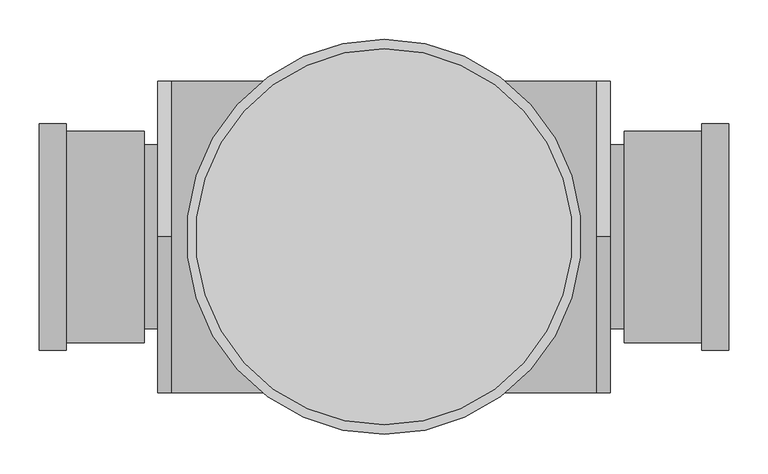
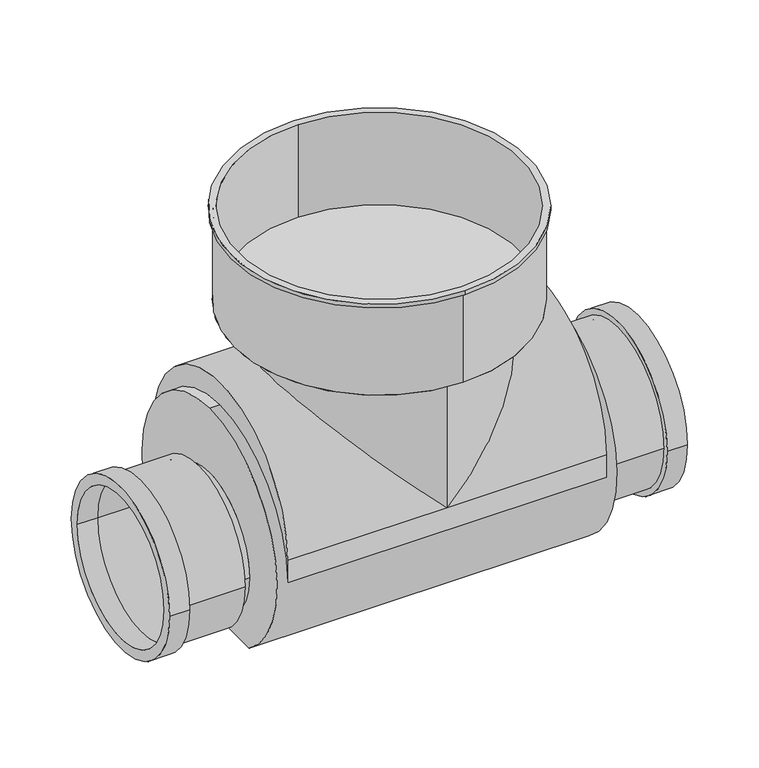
"""IFC4 building model written with IfcOpenShell, lengths in millimetres: valve geometry, Pipelife - Studnia PRO 425 - Kineta studni przelotowa PR 2M G1 : 425 p GŁ 200 2M G1."""

import ifcopenshell
import ifcopenshell.guid

model = None  # the IFC model being written
_history = None  # IfcOwnerHistory: only IFC2X3 demands one
_inside = {}  # id of a spatial element -> (the spatial element, [elements in it])
_under = {}  # id of a project, library or spatial element -> (it, [spatial elements below it])
_declared = {}  # id of a project -> (the project, [libraries it declares])
_typed = {}  # id of a type object -> (the type object, [elements of that type])
_made_of = {}  # id of a material, layer set ... -> (it, [elements and type objects made of it])


def new_model(schema):
    """Start an empty IFC model of exactly this schema.

    Asked for "IFC4X3", IfcOpenShell would pick the latest addendum, in which some entities
    have other attributes; the version numbers below select the first issue.
    IFC2X3 requires an IfcOwnerHistory on every rooted entity: one is made here for all.
    """
    global model, _history
    if schema == "IFC4X3":
        model = ifcopenshell.file(schema_version=(4, 3, 0, 0))
    else:
        model = ifcopenshell.file(schema=schema)
    _inside.clear()
    _under.clear()
    _declared.clear()
    _typed.clear()
    _made_of.clear()
    _history = None
    if model.schema == "IFC2X3":
        org = make("IfcOrganization", Name="unknown")
        user = make(
            "IfcPersonAndOrganization",
            ThePerson=make("IfcPerson", FamilyName="unknown"),
            TheOrganization=org,
        )
        app = make(
            "IfcApplication",
            ApplicationDeveloper=org,
            Version="unknown",
            ApplicationFullName="unknown",
            ApplicationIdentifier="unknown",
        )
        _history = make(
            "IfcOwnerHistory",
            OwningUser=user,
            OwningApplication=app,
            ChangeAction="ADDED",
            CreationDate=0,
        )
    return model


def make(cls, **values):
    """One entity of the class cls with the attributes given. An attribute that is None is left unset."""
    return model.create_entity(
        cls, **{name: value for name, value in values.items() if value is not None}
    )


def rooted(cls, **values):
    """An entity with a GlobalId (a new one), such as an element, a storey or a relation."""
    return make(cls, GlobalId=ifcopenshell.guid.new(), OwnerHistory=_history, **values)


def si_unit(unit_type, name, prefix=None):
    """IfcSIUnit, for example si_unit("LENGTHUNIT", "METRE", prefix="MILLI")."""
    return make("IfcSIUnit", UnitType=unit_type, Prefix=prefix, Name=name)


def assignment(units):
    """IfcUnitAssignment: the units of a project."""
    return None if units is None else make("IfcUnitAssignment", Units=units)


def point(xyz):
    """IfcCartesianPoint."""
    return None if xyz is None else make("IfcCartesianPoint", Coordinates=xyz)


def direction(xyz):
    """IfcDirection."""
    return None if xyz is None else make("IfcDirection", DirectionRatios=xyz)


def frame(location, z_axis=None, x_axis=None):
    """IfcAxis2Placement3D, a coordinate frame: its origin and axes. An axis left out is left unset."""
    return make(
        "IfcAxis2Placement3D",
        Location=point(location),
        Axis=direction(z_axis),
        RefDirection=direction(x_axis),
    )


def frame_2d(location, x_axis=None):
    """IfcAxis2Placement2D, a coordinate frame in the plane: its origin and x axis."""
    return make(
        "IfcAxis2Placement2D", Location=point(location), RefDirection=direction(x_axis)
    )


def origin():
    """The frame at (0, 0, 0) with its axes left unset."""
    return frame((0.0, 0.0, 0.0))


def place(relative_to, where):
    """IfcLocalPlacement: puts the frame where relative to a parent placement (None: the world)."""
    return make(
        "IfcLocalPlacement", PlacementRelTo=relative_to, RelativePlacement=where
    )


def context(
    kind, dimensions, precision=None, world=None, true_north=None, identifier=None
):
    """IfcGeometricRepresentationContext, for example the 3D "Model" context."""
    return make(
        "IfcGeometricRepresentationContext",
        ContextIdentifier=identifier,
        ContextType=kind,
        CoordinateSpaceDimension=dimensions,
        Precision=precision,
        WorldCoordinateSystem=world,
        TrueNorth=true_north,
    )


def project(units=None, contexts=None):
    """IfcProject with its units and contexts."""
    return rooted(
        "IfcProject",
        Name="project",
        RepresentationContexts=contexts,
        UnitsInContext=assignment(units),
    )


def spatial(cls, under=None, at=None, **own):
    """A site, building, storey or space (cls), placed at a placement, below another one or the project."""
    s = rooted(cls, ObjectPlacement=at, **own)
    if under is not None:
        _under.setdefault(under.id(), (under, []))[1].append(s)
    return s


def polyline(points):
    """IfcPolyline through the points."""
    return make("IfcPolyline", Points=[point(p) for p in points])


def circle_curve(where, radius):
    """IfcCircle in the frame where."""
    return make("IfcCircle", Position=where, Radius=radius)


def ellipse_curve(where, semi_axis1, semi_axis2):
    """IfcEllipse in the frame where."""
    return make(
        "IfcEllipse", Position=where, SemiAxis1=semi_axis1, SemiAxis2=semi_axis2
    )


def trimmed(basis, trim1, trim2, sense, master):
    """IfcTrimmedCurve: the piece of a basis curve between two trims."""
    return make(
        "IfcTrimmedCurve",
        BasisCurve=basis,
        Trim1=trim1,
        Trim2=trim2,
        SenseAgreement=sense,
        MasterRepresentation=master,
    )


def segment(curve, same_sense, transition):
    """IfcCompositeCurveSegment."""
    return make(
        "IfcCompositeCurveSegment",
        Transition=transition,
        SameSense=same_sense,
        ParentCurve=curve,
    )


def composite_curve(segments, self_intersect=None):
    """IfcCompositeCurve: segments joined end to end."""
    return make("IfcCompositeCurve", Segments=segments, SelfIntersect=self_intersect)


def outline(outer, holes=None, kind="AREA"):
    """IfcArbitraryClosedProfileDef: a profile drawn as a closed curve; with holes, ...WithVoids."""
    if holes is None:
        return make("IfcArbitraryClosedProfileDef", ProfileType=kind, OuterCurve=outer)
    return make(
        "IfcArbitraryProfileDefWithVoids",
        ProfileType=kind,
        OuterCurve=outer,
        InnerCurves=holes,
    )


def extrude(swept, where, along, depth):
    """IfcExtrudedAreaSolid: the profile swept, set in the frame where, extruded along a direction by depth."""
    return make(
        "IfcExtrudedAreaSolid",
        SweptArea=swept,
        Position=where,
        ExtrudedDirection=direction(along),
        Depth=depth,
    )


def shape(context_of_items, identifier, shape_type, items):
    """IfcShapeRepresentation: the items that make up one representation, for example the "Body"."""
    return make(
        "IfcShapeRepresentation",
        ContextOfItems=context_of_items,
        RepresentationIdentifier=identifier,
        RepresentationType=shape_type,
        Items=items,
    )


def source(mapping_origin, context_of_items, identifier, shape_type, items):
    """IfcRepresentationMap: a shape defined once, which mapped items show again and again."""
    return make(
        "IfcRepresentationMap",
        MappingOrigin=mapping_origin,
        MappedRepresentation=shape(context_of_items, identifier, shape_type, items),
    )


def transform(
    local_origin,
    x_axis=None,
    y_axis=None,
    z_axis=None,
    scale=None,
    scale2=None,
    scale3=None,
    uniform=True,
):
    """IfcCartesianTransformationOperator3D, or its non-uniform kind. x_axis, y_axis, z_axis: its Axis1, 2, 3."""
    if uniform:
        return make(
            "IfcCartesianTransformationOperator3D",
            Axis1=direction(x_axis),
            Axis2=direction(y_axis),
            LocalOrigin=point(local_origin),
            Scale=scale,
            Axis3=direction(z_axis),
        )
    return make(
        "IfcCartesianTransformationOperator3DnonUniform",
        Axis1=direction(x_axis),
        Axis2=direction(y_axis),
        LocalOrigin=point(local_origin),
        Scale=scale,
        Axis3=direction(z_axis),
        Scale2=scale2,
        Scale3=scale3,
    )


def mapped(mapping_source, mapping_target):
    """IfcMappedItem: shows the shape of a source again, moved by a transform."""
    return make(
        "IfcMappedItem", MappingSource=mapping_source, MappingTarget=mapping_target
    )


def made_of(thing, what):
    """Note that an element or type object is made of a material, layer set ...; save() writes the relation."""
    if what is not None:
        _made_of.setdefault(what.id(), (what, []))[1].append(thing)
    return thing


def element(
    cls,
    number,
    at=None,
    inside=None,
    cuts=None,
    type_object=None,
    material=None,
    context=None,
    identifier="Body",
    shape_type=None,
    held_by="IfcProductDefinitionShape",
    body=None,
    shapes=None,
    **own,
):
    """One element of the class cls, such as IfcWall. Its Tag is "e" and its number.

    at: its placement. inside: the storey or other place that contains it. cuts: it is an
    opening in that element (IfcRelVoidsElement). A single representation is given by context,
    identifier, shape_type and body (its items); several are given by shapes. held_by: the class
    of the entity that holds the representations. save() writes the other relations.
    """
    e = rooted(cls, Tag="e%d" % number, ObjectPlacement=at, **own)
    if body is not None:
        shapes = [shape(context, identifier, shape_type, body)]
    if shapes is not None:
        e.Representation = make(held_by, Representations=shapes)
    if inside is not None:
        _inside.setdefault(inside.id(), (inside, []))[1].append(e)
    if cuts is not None:
        rooted(
            "IfcRelVoidsElement", RelatingBuildingElement=cuts, RelatedOpeningElement=e
        )
    if type_object is not None:
        _typed.setdefault(type_object.id(), (type_object, []))[1].append(e)
    return made_of(e, material)


def aggregate(whole, parts):
    """IfcRelAggregates: a whole, such as a stair, and the parts it consists of."""
    return rooted("IfcRelAggregates", RelatingObject=whole, RelatedObjects=parts)


def save(model, path):
    """Write the relations noted so far, then the file.

    IfcRelAggregates (storeys below a building ...), IfcRelContainedInSpatialStructure (elements
    in a storey), IfcRelDefinesByType, IfcRelAssociatesMaterial and IfcRelDeclares: one each for
    every whole, place, type object, material and project.
    """
    for whole, parts in _under.values():
        aggregate(whole, parts)
    for where, things in _inside.values():
        rooted(
            "IfcRelContainedInSpatialStructure",
            RelatedElements=things,
            RelatingStructure=where,
        )
    for kind, things in _typed.values():
        rooted("IfcRelDefinesByType", RelatedObjects=things, RelatingType=kind)
    for what, things in _made_of.values():
        rooted("IfcRelAssociatesMaterial", RelatedObjects=things, RelatingMaterial=what)
    for by, libraries in _declared.values():
        rooted("IfcRelDeclares", RelatingContext=by, RelatedDefinitions=libraries)
    model.write(path)


def plane_surface(at):
    """IfcPlane: the flat surface through the origin of the frame at, square to its z axis."""
    return make("IfcPlane", Position=at)


def cylinder_surface(at, radius):
    """IfcCylindricalSurface: all points at the distance radius from the z axis of the frame at."""
    return make("IfcCylindricalSurface", Position=at, Radius=radius)


def revolved_surface(curve, axis_point, axis_direction):
    """IfcSurfaceOfRevolution: the curve turned about the line through axis_point along axis_direction."""
    return make(
        "IfcSurfaceOfRevolution",
        SweptCurve=make("IfcArbitraryOpenProfileDef", ProfileType="CURVE", Curve=curve),
        AxisPosition=make("IfcAxis1Placement", Location=point(axis_point), Axis=direction(axis_direction)),
    )


def advanced_brep(points, edges, surfaces, faces):
    """IfcAdvancedBrep: a solid bounded by faces that lie on surfaces and meet in shared edges.

    An edge is (start, end): straight between two places in points (the first is 0);
    or (start, end, curve); or (start, end, curve, False) where it runs against its curve.
    A face is (place in surfaces, loops), or (place, loops, False) where it looks against
    its surface's normal. A loop lists edges by number (the first is 1), with a minus sign
    where the edge is run from its end to its start. The first loop is the outer one.
    """
    corners = [point(p) for p in points]
    vertices = [make("IfcVertexPoint", VertexGeometry=c) for c in corners]
    made = []
    for start, end, *more in edges:
        made.append(
            make(
                "IfcEdgeCurve",
                EdgeStart=vertices[start],
                EdgeEnd=vertices[end],
                EdgeGeometry=more[0] if more else make("IfcPolyline", Points=[corners[start], corners[end]]),
                SameSense=more[1] if len(more) > 1 else True,
            )
        )
    hull = []
    for where, loops, *sense in faces:
        bounds = []
        for j, loop in enumerate(loops):
            ring = [make("IfcOrientedEdge", EdgeElement=made[abs(k) - 1], Orientation=k > 0) for k in loop]
            bounds.append(
                make(
                    "IfcFaceOuterBound" if j == 0 else "IfcFaceBound",
                    Bound=make("IfcEdgeLoop", EdgeList=ring),
                    Orientation=True,
                )
            )
        hull.append(make("IfcAdvancedFace", Bounds=bounds, FaceSurface=surfaces[where], SameSense=sense[0] if sense else True))
    return make("IfcAdvancedBrep", Outer=make("IfcClosedShell", CfsFaces=hull))


def valve_feb3e114(model_context):
    return source(origin(), model_context, "Body", "SolidModel", [
        extrude(outline(composite_curve([segment(trimmed(circle_curve(frame_2d((0.0, -1.0)), 144.0), [point((-144.0, -1.0))], [point((144.0, -1.0))], False, "CARTESIAN"), True, "CONTINUOUS"), segment(trimmed(circle_curve(frame_2d((0.0, -1.0)), 144.0), [point((144.0, -1.0))], [point((-144.0, -1.0))], False, "CARTESIAN"), True, "CONTINUOUS")], self_intersect=False), holes=[composite_curve([segment(trimmed(circle_curve(frame_2d((0.0, -1.0)), 126.5), [point((126.5, -1.0))], [point((-126.5, -1.0))], True, "CARTESIAN"), True, "CONTINUOUS"), segment(trimmed(circle_curve(frame_2d((0.0, -1.0)), 126.5), [point((-126.5, -1.0))], [point((126.5, -1.0))], True, "CARTESIAN"), True, "CONTINUOUS")], self_intersect=False)]), frame((-438.0, 0.0, 0.0), z_axis=(1.0, 0.0, 0.0), x_axis=(0.0, 1.0, 0.0)), (0.0, 0.0, 1.0), 34.0),
        extrude(outline(composite_curve([segment(trimmed(circle_curve(frame_2d((0.0, -1.0)), 144.0), [point((-144.0, -1.0))], [point((144.0, -1.0))], False, "CARTESIAN"), True, "CONTINUOUS"), segment(trimmed(circle_curve(frame_2d((0.0, -1.0)), 144.0), [point((144.0, -1.0))], [point((-144.0, -1.0))], False, "CARTESIAN"), True, "CONTINUOUS")], self_intersect=False), holes=[composite_curve([segment(trimmed(circle_curve(frame_2d((0.0, -1.0)), 126.5), [point((126.5, -1.0))], [point((-126.5, -1.0))], True, "CARTESIAN"), True, "CONTINUOUS"), segment(trimmed(circle_curve(frame_2d((0.0, -1.0)), 126.5), [point((-126.5, -1.0))], [point((126.5, -1.0))], True, "CARTESIAN"), True, "CONTINUOUS")], self_intersect=False)]), frame((404.0, 0.0, 0.0), z_axis=(1.0, 0.0, 0.0), x_axis=(0.0, 1.0, 0.0)), (0.0, 0.0, 1.0), 34.0),
        advanced_brep(
        [(0.0, 245.0, 325.0), (0.0, -245.0, 325.0), (0.0, -245.0, 485.0), (0.0, 245.0, 485.0), (0.0, 239.0, 327.0), (0.0, -239.0, 327.0), (0.0, 239.0, 492.0), (0.0, -239.0, 492.0), (0.0, 251.0, 492.0), (0.0, -251.0, 492.0), (0.0, 251.0, 485.0), (0.0, -251.0, 485.0)],
        [
            (0, 1, circle_curve(frame((0.0, 0.0, 325.0), z_axis=(0.0, 0.0, -1.0), x_axis=(0.0, -1.0, 0.0)), 245.0)),
            (1, 0, circle_curve(frame((0.0, 0.0, 325.0), z_axis=(0.0, 0.0, -1.0), x_axis=(0.0, -1.0, 0.0)), 245.0)),
            (1, 2),
            (2, 3, circle_curve(frame((0.0, 0.0, 485.0), z_axis=(0.0, 0.0, -1.0), x_axis=(0.0, -1.0, 0.0)), 245.0)),
            (3, 0),
            (3, 2, circle_curve(frame((0.0, 0.0, 485.0), z_axis=(0.0, 0.0, -1.0), x_axis=(0.0, -1.0, 0.0)), 245.0)),
            (4, 5, circle_curve(frame((0.0, 0.0, 327.0), z_axis=(0.0, 0.0, 1.0), x_axis=(0.0, -1.0, 0.0)), 239.0)),
            (5, 4, circle_curve(frame((0.0, 0.0, 327.0), z_axis=(0.0, 0.0, 1.0), x_axis=(0.0, -1.0, 0.0)), 239.0)),
            (4, 6),
            (6, 7, circle_curve(frame((0.0, 0.0, 492.0), z_axis=(0.0, 0.0, 1.0), x_axis=(0.0, -1.0, 0.0)), 239.0)),
            (7, 5),
            (7, 6, circle_curve(frame((0.0, 0.0, 492.0), z_axis=(0.0, 0.0, 1.0), x_axis=(0.0, -1.0, 0.0)), 239.0)),
            (8, 9, circle_curve(frame((0.0, 0.0, 492.0), z_axis=(0.0, 0.0, 1.0), x_axis=(0.0, -1.0, 0.0)), 251.0)),
            (9, 8, circle_curve(frame((0.0, 0.0, 492.0), z_axis=(0.0, 0.0, 1.0), x_axis=(0.0, -1.0, 0.0)), 251.0)),
            (10, 11, circle_curve(frame((0.0, 0.0, 485.0), z_axis=(0.0, 0.0, -1.0), x_axis=(0.0, -1.0, 0.0)), 251.0)),
            (11, 10, circle_curve(frame((0.0, 0.0, 485.0), z_axis=(0.0, 0.0, -1.0), x_axis=(0.0, -1.0, 0.0)), 251.0)),
            (8, 10),
            (11, 9),
        ],
        [
            plane_surface(frame((0.0, 0.0, 325.0), z_axis=(0.0, 0.0, -1.0), x_axis=(0.0, -1.0, 0.0))),
            cylinder_surface(frame((0.0, 0.0, 485.0), z_axis=(0.0, 0.0, 1.0), x_axis=(0.0, -1.0, 0.0)), 245.0),
            plane_surface(frame((0.0, 0.0, 327.0), z_axis=(0.0, 0.0, 1.0), x_axis=(0.0, -1.0, 0.0))),
            revolved_surface(polyline([(0.0, -239.0, 492.0), (0.0, -239.0, 327.0)]), (0.0, 0.0, 492.0), (0.0, 0.0, 1.0)),
            plane_surface(frame((0.0, 0.0, 492.0), z_axis=(0.0, 0.0, 1.0), x_axis=(0.0, -1.0, 0.0))),
            plane_surface(frame((0.0, 0.0, 485.0), z_axis=(0.0, 0.0, -1.0), x_axis=(0.0, -1.0, 0.0))),
            cylinder_surface(frame((0.0, 0.0, 492.0), z_axis=(0.0, 0.0, 1.0), x_axis=(0.0, -1.0, 0.0)), 251.0),
        ],
        [
            (0, [[1, 2]]),
            (1, [[-2, 3, 4, 5]]),
            (1, [[-1, -5, 6, -3]]),
            (2, [[7, 8]]),
            (3, [[-7, 9, 10, 11]]),
            (3, [[-8, -11, 12, -9]]),
            (4, [[13, 14], [-10, -12]]),
            (5, [[15, 16], [-4, -6]]),
            (6, [[-13, 17, -16, 18]]),
            (6, [[-14, -18, -15, -17]]),
        ],
    ),
        advanced_brep(
        [(0.0, 198.0, 320.0), (0.0, -198.0, 320.0), (0.0, 198.0, 72.5), (0.0, -198.0, 72.5), (-404.0, -134.5, -1.0), (-404.0, 134.5, -1.0), (-404.0, 126.5, -1.0), (-404.0, -126.5, -1.0), (-305.0, -134.5, -1.0), (-305.0, 134.5, -1.0), (-305.0, -117.0, -1.0), (-305.0, 117.0, -1.0), (-311.0, -126.5, -1.0), (-311.0, 126.5, -1.0), (305.0, -134.5, -1.0), (305.0, 134.5, -1.0), (305.0, 117.0, -1.0), (305.0, -117.0, -1.0), (404.0, -134.5, -1.0), (404.0, 134.5, -1.0), (404.0, -126.5, -1.0), (404.0, 126.5, -1.0), (311.0, -126.5, -1.0), (311.0, 126.5, -1.0), (-287.5, -117.0, -1.0), (-287.5, 117.0, -1.0), (287.5, -117.0, -1.0), (287.5, 117.0, -1.0), (-269.5, -198.0, 72.5), (-269.5, 198.0, 72.5), (-269.5, 198.0, 32.5), (-269.5, 0.0, 230.5), (-269.5, -198.0, 32.5), (269.5, -198.0, 72.5), (269.5, -198.0, 32.5), (269.5, 0.0, 230.5), (269.5, 198.0, 32.5), (269.5, 198.0, 72.5), (-287.5, -115.9471863, -128.0), (-287.5, 0.0, 230.5), (-287.5, 115.9471863, -128.0), (287.5, 115.9471863, -128.0), (287.5, 0.0, 230.5), (287.5, -115.9471863, -128.0)],
        [
            (0, 1, circle_curve(frame((0.0, 0.0, 320.0), z_axis=(0.0, 0.0, 1.0), x_axis=(0.0, -1.0, 0.0)), 198.0)),
            (1, 0, circle_curve(frame((0.0, 0.0, 320.0), z_axis=(0.0, 0.0, 1.0), x_axis=(0.0, -1.0, 0.0)), 198.0)),
            (0, 2),
            (2, 3, ellipse_curve(frame((0.0, 0.0, 72.5), z_axis=(0.7071067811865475, 0.0, 0.7071067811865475), x_axis=(-0.7071067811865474, 0.0, 0.7071067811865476)), 280.0142853, 198.0)),
            (3, 1),
            (3, 2, ellipse_curve(frame((0.0, 0.0, 72.5), z_axis=(-0.7071067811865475, 0.0, 0.7071067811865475), x_axis=(0.7071067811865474, 0.0, 0.7071067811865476)), 280.0142853, 198.0)),
            (4, 5, circle_curve(frame((-404.0, 0.0, -1.0), z_axis=(-1.0, 0.0, 0.0), x_axis=(0.0, 1.0, 0.0)), 134.5)),
            (5, 4, circle_curve(frame((-404.0, 0.0, -1.0), z_axis=(-1.0, 0.0, 0.0), x_axis=(0.0, 1.0, 0.0)), 134.5)),
            (6, 7, circle_curve(frame((-404.0, 0.0, -1.0), z_axis=(1.0, 0.0, 0.0), x_axis=(0.0, 1.0, 0.0)), 126.5)),
            (7, 6, circle_curve(frame((-404.0, 0.0, -1.0), z_axis=(1.0, 0.0, 0.0), x_axis=(0.0, 1.0, 0.0)), 126.5)),
            (8, 9, circle_curve(frame((-305.0, 0.0, -1.0), z_axis=(1.0, 0.0, 0.0), x_axis=(0.0, 1.0, 0.0)), 134.5)),
            (9, 8, circle_curve(frame((-305.0, 0.0, -1.0), z_axis=(1.0, 0.0, 0.0), x_axis=(0.0, 1.0, 0.0)), 134.5)),
            (10, 11, circle_curve(frame((-305.0, 0.0, -1.0), z_axis=(-1.0, 0.0, 0.0), x_axis=(0.0, 1.0, 0.0)), 117.0)),
            (11, 10, circle_curve(frame((-305.0, 0.0, -1.0), z_axis=(-1.0, 0.0, 0.0), x_axis=(0.0, 1.0, 0.0)), 117.0)),
            (4, 8),
            (9, 5),
            (12, 13, circle_curve(frame((-311.0, 0.0, -1.0), z_axis=(-1.0, 0.0, 0.0), x_axis=(0.0, 1.0, 0.0)), 126.5)),
            (13, 12, circle_curve(frame((-311.0, 0.0, -1.0), z_axis=(-1.0, 0.0, 0.0), x_axis=(0.0, 1.0, 0.0)), 126.5)),
            (12, 7),
            (6, 13),
            (14, 15, circle_curve(frame((305.0, 0.0, -1.0), z_axis=(-1.0, 0.0, 0.0), x_axis=(0.0, 1.0, 0.0)), 134.5)),
            (15, 14, circle_curve(frame((305.0, 0.0, -1.0), z_axis=(-1.0, 0.0, 0.0), x_axis=(0.0, 1.0, 0.0)), 134.5)),
            (16, 17, circle_curve(frame((305.0, 0.0, -1.0), z_axis=(1.0, 0.0, 0.0), x_axis=(0.0, 1.0, 0.0)), 117.0)),
            (17, 16, circle_curve(frame((305.0, 0.0, -1.0), z_axis=(1.0, 0.0, 0.0), x_axis=(0.0, 1.0, 0.0)), 117.0)),
            (18, 19, circle_curve(frame((404.0, 0.0, -1.0), z_axis=(1.0, 0.0, 0.0), x_axis=(0.0, 1.0, 0.0)), 134.5)),
            (19, 18, circle_curve(frame((404.0, 0.0, -1.0), z_axis=(1.0, 0.0, 0.0), x_axis=(0.0, 1.0, 0.0)), 134.5)),
            (20, 21, circle_curve(frame((404.0, 0.0, -1.0), z_axis=(-1.0, 0.0, 0.0), x_axis=(0.0, 1.0, 0.0)), 126.5)),
            (21, 20, circle_curve(frame((404.0, 0.0, -1.0), z_axis=(-1.0, 0.0, 0.0), x_axis=(0.0, 1.0, 0.0)), 126.5)),
            (14, 18),
            (19, 15),
            (22, 23, circle_curve(frame((311.0, 0.0, -1.0), z_axis=(1.0, 0.0, 0.0), x_axis=(0.0, 1.0, 0.0)), 126.5)),
            (23, 22, circle_curve(frame((311.0, 0.0, -1.0), z_axis=(1.0, 0.0, 0.0), x_axis=(0.0, 1.0, 0.0)), 126.5)),
            (23, 21),
            (20, 22),
            (10, 24),
            (24, 25, circle_curve(frame((-287.5, 0.0, -1.0), z_axis=(-1.0, 0.0, 0.0), x_axis=(0.0, 1.0, 0.0)), 117.0)),
            (25, 11),
            (25, 24, circle_curve(frame((-287.5, 0.0, -1.0), z_axis=(-1.0, 0.0, 0.0), x_axis=(0.0, 1.0, 0.0)), 117.0)),
            (26, 17),
            (16, 27),
            (27, 26, circle_curve(frame((287.5, 0.0, -1.0), z_axis=(1.0, 0.0, 0.0), x_axis=(0.0, 1.0, 0.0)), 117.0)),
            (26, 27, circle_curve(frame((287.5, 0.0, -1.0), z_axis=(1.0, 0.0, 0.0), x_axis=(0.0, 1.0, 0.0)), 117.0)),
            (28, 29, circle_curve(frame((-269.5, 0.0, 72.5), z_axis=(-1.0, 0.0, 0.0), x_axis=(0.0, 0.0, 1.0)), 198.0)),
            (29, 30),
            (30, 31, circle_curve(frame((-269.5, 0.0, 32.5), z_axis=(1.0, 0.0, 0.0), x_axis=(0.0, 0.0, 1.0)), 198.0)),
            (31, 32, circle_curve(frame((-269.5, 0.0, 32.5), z_axis=(1.0, 0.0, 0.0), x_axis=(0.0, 0.0, 1.0)), 198.0)),
            (32, 28),
            (33, 34),
            (34, 35, circle_curve(frame((269.5, 0.0, 32.5), z_axis=(-1.0, 0.0, 0.0), x_axis=(0.0, 0.0, 1.0)), 198.0)),
            (35, 36, circle_curve(frame((269.5, 0.0, 32.5), z_axis=(-1.0, 0.0, 0.0), x_axis=(0.0, 0.0, 1.0)), 198.0)),
            (36, 37),
            (37, 33, circle_curve(frame((269.5, 0.0, 72.5), z_axis=(1.0, 0.0, 0.0), x_axis=(0.0, 0.0, 1.0)), 198.0)),
            (28, 3),
            (2, 29),
            (37, 2),
            (3, 33),
            (36, 30),
            (32, 34),
            (38, 39, circle_curve(frame((-287.5, 0.0, 32.5), z_axis=(-1.0, 0.0, 0.0), x_axis=(0.0, 0.0, 1.0)), 198.0)),
            (39, 40, circle_curve(frame((-287.5, 0.0, 32.5), z_axis=(-1.0, 0.0, 0.0), x_axis=(0.0, 0.0, 1.0)), 198.0)),
            (40, 38),
            (41, 42, circle_curve(frame((287.5, 0.0, 32.5), z_axis=(1.0, 0.0, 0.0), x_axis=(0.0, 0.0, 1.0)), 198.0)),
            (42, 43, circle_curve(frame((287.5, 0.0, 32.5), z_axis=(1.0, 0.0, 0.0), x_axis=(0.0, 0.0, 1.0)), 198.0)),
            (43, 41),
            (38, 43),
            (42, 35),
            (31, 39),
            (41, 40),
        ],
        [
            plane_surface(frame((0.0, 0.0, 320.0), z_axis=(0.0, 0.0, 1.0), x_axis=(0.0, -1.0, 0.0))),
            cylinder_surface(frame((0.0, 0.0, 320.0), z_axis=(0.0, 0.0, 1.0), x_axis=(0.0, -1.0, 0.0)), 198.0),
            plane_surface(frame((-404.0, 0.0, -1.0), z_axis=(-1.0, 0.0, 0.0), x_axis=(0.0, 0.0, 1.0))),
            plane_surface(frame((-305.0, 0.0, -1.0), z_axis=(1.0, 0.0, 0.0), x_axis=(0.0, 0.0, 1.0))),
            cylinder_surface(frame((-404.0, 0.0, -1.0), z_axis=(-1.0, 0.0, 0.0), x_axis=(0.0, 1.0, 0.0)), 134.5),
            plane_surface(frame((-311.0, 0.0, -1.0), z_axis=(-1.0, 0.0, 0.0), x_axis=(0.0, 0.0, 1.0))),
            revolved_surface(polyline([(-404.0, 126.5, -1.0), (-311.0, 126.5, -1.0)]), (-438.0, 0.0, -1.0), (-1.0, 0.0, 0.0)),
            plane_surface(frame((305.0, 0.0, -1.0), z_axis=(-1.0, 0.0, 0.0), x_axis=(0.0, 0.0, 1.0))),
            plane_surface(frame((404.0, 0.0, -1.0), z_axis=(1.0, 0.0, 0.0), x_axis=(0.0, 0.0, 1.0))),
            cylinder_surface(frame((305.0, 0.0, -1.0), z_axis=(-1.0, 0.0, 0.0), x_axis=(0.0, 1.0, 0.0)), 134.5),
            plane_surface(frame((311.0, 0.0, -1.0), z_axis=(1.0, 0.0, 0.0), x_axis=(0.0, 0.0, 1.0))),
            revolved_surface(polyline([(311.0, 126.5, -1.0), (404.0, 126.5, -1.0)]), (311.0, 0.0, -1.0), (-1.0, 0.0, 0.0)),
            cylinder_surface(frame((-305.0, 0.0, -1.0), z_axis=(-1.0, 0.0, 0.0), x_axis=(0.0, 1.0, 0.0)), 117.0),
            cylinder_surface(frame((0.0, 0.0, -1.0), z_axis=(-1.0, 0.0, 0.0), x_axis=(0.0, 1.0, 0.0)), 117.0),
            plane_surface(frame((-269.5, 0.0, 72.5), z_axis=(-1.0, 0.0, 0.0), x_axis=(0.0, -1.0, 0.0))),
            plane_surface(frame((269.5, 0.0, 72.5), z_axis=(1.0, 0.0, 0.0), x_axis=(0.0, -1.0, 0.0))),
            cylinder_surface(frame((-269.5, 0.0, 72.5), z_axis=(-1.0, 0.0, 0.0), x_axis=(0.0, 0.0, 1.0)), 198.0),
            plane_surface(frame((-269.5, 198.0, 72.5), z_axis=(0.0, 1.0, 0.0), x_axis=(1.0, 0.0, 0.0))),
            plane_surface(frame((-269.5, -198.0, 32.5), z_axis=(0.0, -1.0, 0.0), x_axis=(1.0, 0.0, 0.0))),
            plane_surface(frame((-287.5, 0.0, 32.5), z_axis=(-1.0, 0.0, 0.0), x_axis=(0.0, -1.0, 0.0))),
            plane_surface(frame((287.5, 0.0, 32.5), z_axis=(1.0, 0.0, 0.0), x_axis=(0.0, -1.0, 0.0))),
            cylinder_surface(frame((-287.5, 0.0, 32.5), z_axis=(-1.0, 0.0, 0.0), x_axis=(0.0, 0.0, 1.0)), 198.0),
            plane_surface(frame((438.0, -194.5, -128.0), z_axis=(0.0, 0.0, -1.0), x_axis=(0.0, 1.0, 0.0))),
        ],
        [
            (0, [[1, 2]]),
            (1, [[-1, 3, 4, 5]]),
            (1, [[-2, -5, 6, -3]]),
            (2, [[7, 8], [9, 10]]),
            (3, [[11, 12], [13, 14]]),
            (4, [[-7, 15, -12, 16]]),
            (4, [[-8, -16, -11, -15]]),
            (5, [[17, 18]]),
            (6, [[-17, 19, -9, 20]]),
            (6, [[-18, -20, -10, -19]]),
            (7, [[21, 22], [23, 24]]),
            (8, [[25, 26], [27, 28]]),
            (9, [[-21, 29, -26, 30]]),
            (9, [[-22, -30, -25, -29]]),
            (10, [[31, 32]]),
            (11, [[-32, 33, -27, 34]]),
            (11, [[-31, -34, -28, -33]]),
            (12, [[35, 36, 37, -13]]),
            (12, [[-35, -14, -37, 38]]),
            (13, [[39, -23, 40, 41]]),
            (13, [[-39, 42, -40, -24]]),
            (14, [[43, 44, 45, 46, 47]]),
            (15, [[48, 49, 50, 51, 52]]),
            (16, [[-43, 53, -4, 54]]),
            (16, [[-52, 55, -6, 56]]),
            (17, [[-44, -54, -55, -51, 57]]),
            (18, [[-47, 58, -48, -56, -53]]),
            (19, [[59, 60, 61], [-36, -38]]),
            (20, [[62, 63, 64], [-41, -42]]),
            (21, [[-59, 65, -63, 66, -49, -58, -46, 67]]),
            (21, [[-60, -67, -45, -57, -50, -66, -62, 68]]),
            (22, [[-61, -68, -64, -65]]),
        ],
    ),
        advanced_brep(
        [(0.0, 194.5, 320.0), (0.0, -194.5, 320.0), (0.0, 245.0, 325.0), (0.0, -245.0, 325.0)],
        [
            (0, 1, circle_curve(frame((0.0, 0.0, 320.0), z_axis=(0.0, 0.0, -1.0), x_axis=(0.0, 1.0, 0.0)), 194.5)),
            (1, 0, circle_curve(frame((0.0, 0.0, 320.0), z_axis=(0.0, 0.0, -1.0), x_axis=(0.0, -1.0, 0.0)), 194.5)),
            (2, 3, circle_curve(frame((0.0, 0.0, 325.0), z_axis=(0.0, 0.0, 1.0), x_axis=(0.0, -1.0, 0.0)), 245.0)),
            (3, 2, circle_curve(frame((0.0, 0.0, 325.0), z_axis=(0.0, 0.0, 1.0), x_axis=(0.0, 1.0, 0.0)), 245.0)),
            (3, 1),
            (0, 2),
        ],
        [
            plane_surface(frame((0.0, 0.0, 320.0), z_axis=(0.0, 0.0, -1.0), x_axis=(1.0, 0.0, 0.0))),
            plane_surface(frame((0.0, 0.0, 325.0), z_axis=(0.0, 0.0, 1.0), x_axis=(1.0, 0.0, 0.0))),
            revolved_surface(polyline([(0.0, 194.49999991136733, 320.0), (0.0, 245.0, 325.0)]), (0.0, 0.0, 300.7425743), (0.0, 0.0, 1.0)),
            revolved_surface(polyline([(0.0, -194.49999991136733, 320.0), (0.0, -245.0, 325.0)]), (0.0, 0.0, 300.7425743), (0.0, 0.0, 1.0)),
        ],
        [
            (0, [[1, 2]]),
            (1, [[3, 4]]),
            (2, [[-4, 5, -1, 6]]),
            (3, [[-3, -6, -2, -5]]),
        ],
    ),
    ])


if __name__ == "__main__":
    model = new_model("IFC4")
    model_context = context("Model", 3, world=origin())
    ifc_project = project(units=[si_unit("LENGTHUNIT", "METRE", prefix="MILLI")], contexts=[model_context])
    site = spatial("IfcSite", under=ifc_project)
    building = spatial("IfcBuilding", under=site)
    placement = place(None, origin())
    valve_shape = valve_feb3e114(model_context)
    element("IfcValve", 1, ObjectType="Pipelife - Studnia PRO 425 - Kineta studni przelotowa PR 2M G1 : 425 p GŁ 200 2M G1", at=placement, inside=building, context=model_context, shape_type="MappedRepresentation", body=[
        mapped(valve_shape, transform((0.0, 0.0, 0.0), x_axis=(1.0, 0.0, 0.0), y_axis=(0.0, 1.0, 0.0), z_axis=(0.0, 0.0, 1.0))),
    ])
    save(model, "model.ifc")
